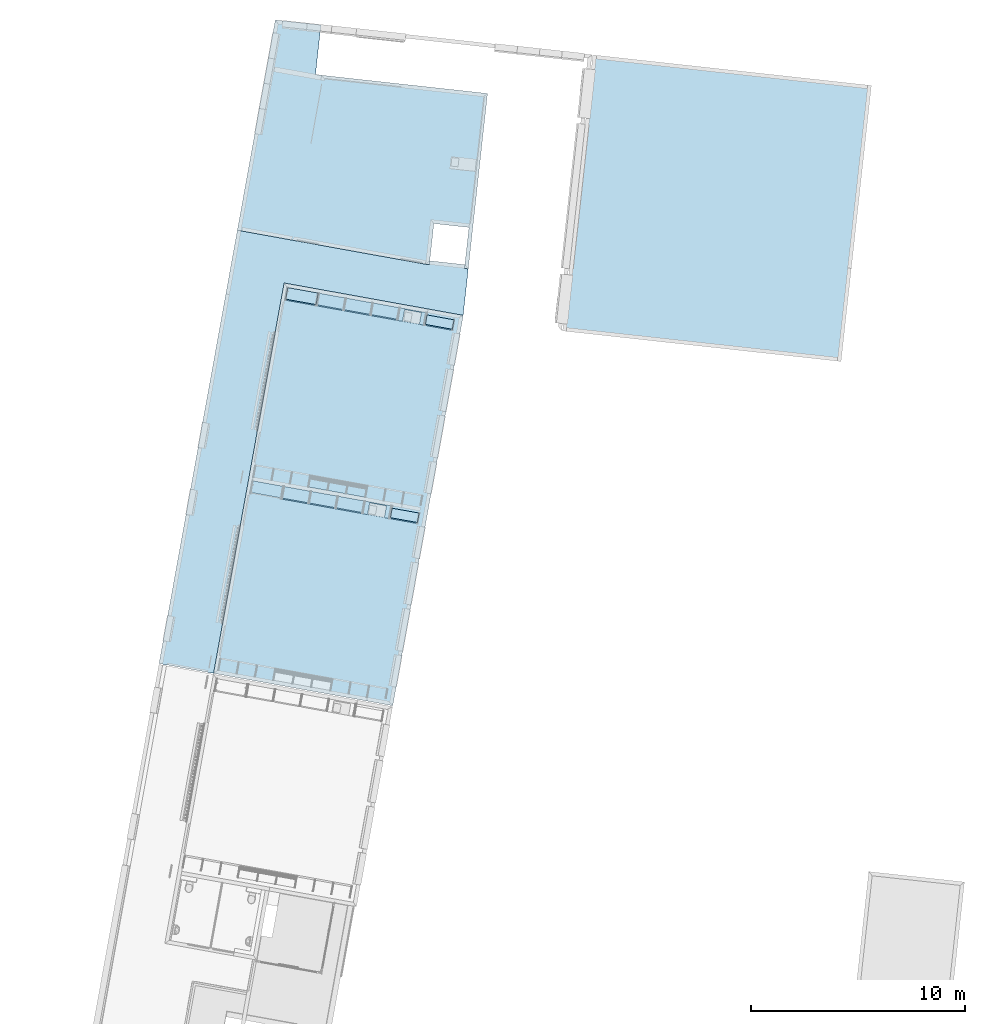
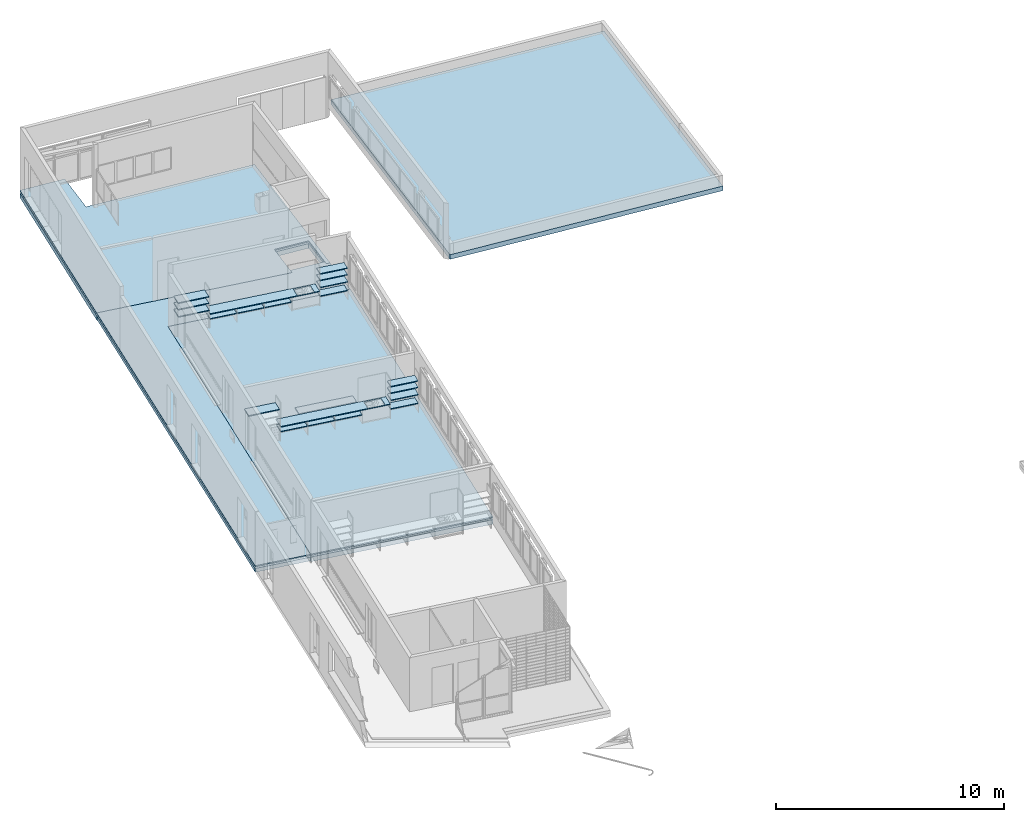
# One storey, part 3 of 52: 28 slabs, 3 elements without a shape of their own.
"""IFC2X3 building model written with IfcOpenShell, lengths in metres."""

from ifc_helpers import new_model, entity, si_unit, converted_unit, derived_unit, money_unit, direction, frame, origin_with_axes, place, context, subcontext, project, spatial, polyline, outline, extrude, material, layer, layer_set, layer_usage, type_object, element, aggregate, save


model = new_model("IFC2X3")

# Units and contexts
model_context = context("Model", 3, precision=1e-05, world=origin_with_axes(), true_north=direction((0.0, 1.0)))
body_context = subcontext(model_context, "Body", "Model", "MODEL_VIEW")
ifc_project = project(units=[si_unit("LENGTHUNIT", "METRE"), si_unit("AREAUNIT", "SQUARE_METRE"), si_unit("VOLUMEUNIT", "CUBIC_METRE"), converted_unit("PLANEANGLEUNIT", "DEGREE", entity("IfcPlaneAngleMeasure", 0.0174532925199), si_unit("PLANEANGLEUNIT", "RADIAN"), dimensions=[0, 0, 0, 0, 0, 0, 0]), money_unit("CHF"), converted_unit("TIMEUNIT", "Year", entity("IfcTimeMeasure", 31556926.0), si_unit("TIMEUNIT", "SECOND"), dimensions=[0, 0, 1, 0, 0, 0, 0]), si_unit("MASSUNIT", "GRAM", prefix="KILO"), si_unit("THERMODYNAMICTEMPERATUREUNIT", "DEGREE_CELSIUS"), si_unit("LUMINOUSINTENSITYUNIT", "LUMEN"), si_unit("ENERGYUNIT", "JOULE", prefix="MEGA"), derived_unit("THERMALCONDUCTANCEUNIT", [(si_unit("POWERUNIT", "WATT"), 1), (si_unit("LENGTHUNIT", "METRE"), -1), (si_unit("THERMODYNAMICTEMPERATUREUNIT", "KELVIN"), -1)]), derived_unit("SPECIFICHEATCAPACITYUNIT", [(si_unit("ENERGYUNIT", "JOULE"), 1), (si_unit("MASSUNIT", "GRAM", prefix="KILO"), -1), (si_unit("THERMODYNAMICTEMPERATUREUNIT", "KELVIN"), -1)]), derived_unit("MASSDENSITYUNIT", [(si_unit("MASSUNIT", "GRAM", prefix="KILO"), 1), (si_unit("VOLUMEUNIT", "CUBIC_METRE"), -1)])], contexts=[model_context])

# Site, building, storey
site_placement = place(None, frame((0.0, 0.0, 0.0), z_axis=(0.0, 0.0, 1.0), x_axis=(-0.177771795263, -0.984071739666, 0.0)))
site = spatial("IfcSite", under=ifc_project, at=site_placement, Name="Site", CompositionType="ELEMENT")
building_placement = place(site_placement, origin_with_axes())
building = spatial("IfcBuilding", under=site, at=building_placement, Name="Bâtiment", CompositionType="ELEMENT")
storey_placement = place(building_placement, frame((0.0, 0.0, 3.2), z_axis=(0.0, 0.0, 1.0), x_axis=(1.0, 0.0, 0.0)))
storey = spatial("IfcBuildingStorey", under=building, at=storey_placement, Name="R+1", CompositionType="ELEMENT", Elevation=3.2)

# Slabs
ifc_material_1 = material(Name="_Bois contreplaqué")
ifc_layer_1 = layer(ifc_material_1, 0.04, ventilated="UNKNOWN")
ifc_layer_set_1 = layer_set([ifc_layer_1], Name="_Bois contreplaqué 0.04")
ifc_layer_usage_1 = layer_usage(ifc_layer_set_1, "AXIS3", "NEGATIVE", 0.04)
slab_type_1 = type_object("IfcSlabType", Name="_Bois contreplaqué 40", PredefinedType="FLOOR")
slab_1_placement = place(storey_placement, frame((110.104841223, -154.978151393, 1.7), z_axis=(0.0, 0.0, 1.0), x_axis=(1.0, 0.0, 0.0)))
element("IfcSlab", 1, at=slab_1_placement, inside=storey, type_object=slab_type_1, material=ifc_layer_usage_1, Name="tablette fd classe", PredefinedType="FLOOR", context=body_context, shape_type="SweptSolid", body=[
    extrude(outline(polyline([(0.0, 0.0), (0.0, -1.44000000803), (0.550000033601, -1.44000000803), (0.550000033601, 0.0), (0.0, 0.0)])), frame((0.0, 0.0, -0.04), z_axis=(0.0, 0.0, 1.0), x_axis=(1.0, 0.0, 0.0)), (0.0, 0.0, 1.0), 0.04),
])
ifc_layer_usage_2 = layer_usage(ifc_layer_set_1, "AXIS3", "NEGATIVE", 0.04)
slab_2_placement = place(storey_placement, frame((110.204841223, -148.506151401, 1.7), z_axis=(0.0, 0.0, 1.0), x_axis=(1.0, 0.0, 0.0)))
element("IfcSlab", 2, at=slab_2_placement, inside=storey, type_object=slab_type_1, material=ifc_layer_usage_2, Name="tablette fd classe", PredefinedType="FLOOR", context=body_context, shape_type="SweptSolid", body=[
    extrude(outline(polyline([(0.0, 0.0), (0.0, -1.28), (0.450000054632, -1.28), (0.450000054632, 0.0), (0.0, 0.0)])), frame((0.0, 0.0, -0.04), z_axis=(0.0, 0.0, 1.0), x_axis=(1.0, 0.0, 0.0)), (0.0, 0.0, 1.0), 0.04),
])
ifc_layer_usage_3 = layer_usage(ifc_layer_set_1, "AXIS3", "NEGATIVE", 0.04)
slab_3_placement = place(storey_placement, frame((110.204841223, -148.506151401, 1.35), z_axis=(0.0, 0.0, 1.0), x_axis=(1.0, 0.0, 0.0)))
element("IfcSlab", 3, at=slab_3_placement, inside=storey, type_object=slab_type_1, material=ifc_layer_usage_3, Name="tablette fd classe", PredefinedType="FLOOR", context=body_context, shape_type="SweptSolid", body=[
    extrude(outline(polyline([(0.0, 0.0), (0.0, -1.28), (0.450000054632, -1.28), (0.450000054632, 0.0), (0.0, 0.0)])), frame((0.0, 0.0, -0.04), z_axis=(0.0, 0.0, 1.0), x_axis=(1.0, 0.0, 0.0)), (0.0, 0.0, 1.0), 0.04),
])
ifc_layer_usage_4 = layer_usage(ifc_layer_set_1, "AXIS3", "NEGATIVE", 0.04)
slab_4_placement = place(storey_placement, frame((110.204841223, -148.506151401, 0.5), z_axis=(0.0, 0.0, 1.0), x_axis=(1.0, 0.0, 0.0)))
element("IfcSlab", 4, at=slab_4_placement, inside=storey, type_object=slab_type_1, material=ifc_layer_usage_4, Name="tablette fd classe", PredefinedType="FLOOR", context=body_context, shape_type="SweptSolid", body=[
    extrude(outline(polyline([(0.0, 0.0), (0.0, -1.28), (0.450000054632, -1.28), (0.450000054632, 0.0), (0.0, 0.0)])), frame((0.0, 0.0, -0.04), z_axis=(0.0, 0.0, 1.0), x_axis=(1.0, 0.0, 0.0)), (0.0, 0.0, 1.0), 0.04),
])
ifc_layer_usage_5 = layer_usage(ifc_layer_set_1, "AXIS3", "NEGATIVE", 0.04)
slab_5_placement = place(storey_placement, frame((110.104841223, -154.978151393, 1.35), z_axis=(0.0, 0.0, 1.0), x_axis=(1.0, 0.0, 0.0)))
element("IfcSlab", 5, at=slab_5_placement, inside=storey, type_object=slab_type_1, material=ifc_layer_usage_5, Name="tablette fd classe", PredefinedType="FLOOR", context=body_context, shape_type="SweptSolid", body=[
    extrude(outline(polyline([(0.0, 0.0), (0.0, -1.44000000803), (0.550000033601, -1.44000000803), (0.550000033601, 0.0), (0.0, 0.0)])), frame((0.0, 0.0, -0.04), z_axis=(0.0, 0.0, 1.0), x_axis=(1.0, 0.0, 0.0)), (0.0, 0.0, 1.0), 0.04),
])
ifc_layer_usage_6 = layer_usage(ifc_layer_set_1, "AXIS3", "NEGATIVE", 0.04)
slab_6_placement = place(storey_placement, frame((110.204841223, -148.506151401, 1.0), z_axis=(0.0, 0.0, 1.0), x_axis=(1.0, 0.0, 0.0)))
element("IfcSlab", 6, at=slab_6_placement, inside=storey, type_object=slab_type_1, material=ifc_layer_usage_6, Name="tablette fd classe fx", PredefinedType="FLOOR", context=body_context, shape_type="SweptSolid", body=[
    extrude(outline(polyline([(0.0, 0.0), (0.0, -1.28), (0.500000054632, -1.28), (0.500000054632, 0.0), (0.0, 0.0)])), frame((0.0, 0.0, -0.04), z_axis=(0.0, 0.0, 1.0), x_axis=(1.0, 0.0, 0.0)), (0.0, 0.0, 1.0), 0.04),
])
ifc_layer_usage_7 = layer_usage(ifc_layer_set_1, "AXIS3", "NEGATIVE", 0.04)
slab_7_placement = place(storey_placement, frame((110.104841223, -153.679193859, 0.5), z_axis=(0.0, 0.0, 1.0), x_axis=(1.0, 0.0, 0.0)))
element("IfcSlab", 7, at=slab_7_placement, inside=storey, type_object=slab_type_1, material=ifc_layer_usage_7, Name="tablette fd classe", PredefinedType="FLOOR", context=body_context, shape_type="SweptSolid", body=[
    extrude(outline(polyline([(0.0, 0.0), (0.0, -1.24004246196), (0.550000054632, -1.24004246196), (0.550000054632, 0.0), (0.0, 0.0)])), frame((0.0, 0.0, -0.04), z_axis=(0.0, 0.0, 1.0), x_axis=(1.0, 0.0, 0.0)), (0.0, 0.0, 1.0), 0.04),
])
ifc_layer_usage_8 = layer_usage(ifc_layer_set_1, "AXIS3", "NEGATIVE", 0.04)
slab_8_placement = place(storey_placement, frame((110.104841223, -154.978236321, 1.0), z_axis=(0.0, 0.0, 1.0), x_axis=(1.0, 0.0, 0.0)))
element("IfcSlab", 8, at=slab_8_placement, inside=storey, type_object=slab_type_1, material=ifc_layer_usage_8, Name="tablette fd classe fx", PredefinedType="FLOOR", context=body_context, shape_type="SweptSolid", body=[
    extrude(outline(polyline([(0.0, 0.0), (0.0, -1.43991508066), (0.600000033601, -1.43991508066), (0.600000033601, 0.0), (0.0, 0.0)])), frame((0.0, 0.0, -0.04), z_axis=(0.0, 0.0, 1.0), x_axis=(1.0, 0.0, 0.0)), (0.0, 0.0, 1.0), 0.04),
])
ifc_layer_usage_9 = layer_usage(ifc_layer_set_1, "AXIS3", "NEGATIVE", 0.04)
slab_9_placement = place(storey_placement, frame((110.104841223, -151.123151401, 0.5), z_axis=(0.0, 0.0, 1.0), x_axis=(1.0, 0.0, 0.0)))
element("IfcSlab", 9, at=slab_9_placement, inside=storey, type_object=slab_type_1, material=ifc_layer_usage_9, Name="tablette fd classe", PredefinedType="FLOOR", context=body_context, shape_type="SweptSolid", body=[
    extrude(outline(polyline([(0.0, 0.0), (0.0, -1.24004246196), (0.550000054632, -1.24004246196), (0.550000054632, 0.0), (0.0, 0.0)])), frame((0.0, 0.0, -0.04), z_axis=(0.0, 0.0, 1.0), x_axis=(1.0, 0.0, 0.0)), (0.0, 0.0, 1.0), 0.04),
])
ifc_layer_usage_10 = layer_usage(ifc_layer_set_1, "AXIS3", "NEGATIVE", 0.04)
slab_10_placement = place(storey_placement, frame((110.104841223, -152.401193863, 0.5), z_axis=(0.0, 0.0, 1.0), x_axis=(1.0, 0.0, 0.0)))
element("IfcSlab", 10, at=slab_10_placement, inside=storey, type_object=slab_type_1, material=ifc_layer_usage_10, Name="tablette fd classe", PredefinedType="FLOOR", context=body_context, shape_type="SweptSolid", body=[
    extrude(outline(polyline([(0.0, 0.0), (0.0, -1.24004246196), (0.550000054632, -1.24004246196), (0.550000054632, 0.0), (0.0, 0.0)])), frame((0.0, 0.0, -0.04), z_axis=(0.0, 0.0, 1.0), x_axis=(1.0, 0.0, 0.0)), (0.0, 0.0, 1.0), 0.04),
])
ifc_layer_usage_11 = layer_usage(ifc_layer_set_1, "AXIS3", "NEGATIVE", 0.04)
slab_11_placement = place(storey_placement, frame((110.104841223, -154.938236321, 0.8), z_axis=(0.0, 0.0, 1.0), x_axis=(1.0, 0.0, 0.0)))
element("IfcSlab", 11, at=slab_11_placement, inside=storey, type_object=slab_type_1, material=ifc_layer_usage_11, Name="plan-travail classe", PredefinedType="FLOOR", context=body_context, shape_type="SweptSolid", body=[
    extrude(outline(polyline([(0.0, 0.0), (0.600000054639, 0.0), (0.600000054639, 5.11208491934), (0.0, 5.11208491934), (0.0, 0.0)]), holes=[polyline([(0.595000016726, 4.87308491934), (0.595000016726, 4.07308491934), (0.0450000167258, 4.07308491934), (0.0450000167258, 4.87308491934), (0.595000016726, 4.87308491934)])]), frame((0.0, 0.0, -0.04), z_axis=(0.0, 0.0, 1.0), x_axis=(1.0, 0.0, 0.0)), (0.0, 0.0, 1.0), 0.04),
])
ifc_layer_usage_12 = layer_usage(ifc_layer_set_1, "AXIS3", "NEGATIVE", 0.04)
slab_12_placement = place(storey_placement, frame((119.284841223, -154.938236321, 0.8), z_axis=(0.0, 0.0, 1.0), x_axis=(1.0, 0.0, 0.0)))
element("IfcSlab", 12, at=slab_12_placement, inside=storey, type_object=slab_type_1, material=ifc_layer_usage_12, Name="plan-travail classe", PredefinedType="FLOOR", context=body_context, shape_type="SweptSolid", body=[
    extrude(outline(polyline([(0.0, 0.0), (0.600000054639, 0.0), (0.600000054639, 5.11208491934), (0.0, 5.11208491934), (0.0, 0.0)]), holes=[polyline([(0.595000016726, 4.87308491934), (0.595000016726, 4.07308491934), (0.0450000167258, 4.07308491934), (0.0450000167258, 4.87308491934), (0.595000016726, 4.87308491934)])]), frame((0.0, 0.0, -0.04), z_axis=(0.0, 0.0, 1.0), x_axis=(1.0, 0.0, 0.0)), (0.0, 0.0, 1.0), 0.04),
])
ifc_layer_usage_13 = layer_usage(ifc_layer_set_1, "AXIS3", "NEGATIVE", 0.04)
slab_13_placement = place(storey_placement, frame((119.384841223, -148.506151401, 1.0), z_axis=(0.0, 0.0, 1.0), x_axis=(1.0, 0.0, 0.0)))
element("IfcSlab", 13, at=slab_13_placement, inside=storey, type_object=slab_type_1, material=ifc_layer_usage_13, Name="tablette fd classe fx", PredefinedType="FLOOR", context=body_context, shape_type="SweptSolid", body=[
    extrude(outline(polyline([(0.0, 0.0), (0.0, -1.28), (0.500000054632, -1.28), (0.500000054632, 0.0), (0.0, 0.0)])), frame((0.0, 0.0, -0.04), z_axis=(0.0, 0.0, 1.0), x_axis=(1.0, 0.0, 0.0)), (0.0, 0.0, 1.0), 0.04),
])
ifc_layer_usage_14 = layer_usage(ifc_layer_set_1, "AXIS3", "NEGATIVE", 0.04)
slab_14_placement = place(storey_placement, frame((119.384841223, -148.506151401, 1.35), z_axis=(0.0, 0.0, 1.0), x_axis=(1.0, 0.0, 0.0)))
element("IfcSlab", 14, at=slab_14_placement, inside=storey, type_object=slab_type_1, material=ifc_layer_usage_14, Name="tablette fd classe", PredefinedType="FLOOR", context=body_context, shape_type="SweptSolid", body=[
    extrude(outline(polyline([(0.0, 0.0), (0.0, -1.28), (0.450000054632, -1.28), (0.450000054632, 0.0), (0.0, 0.0)])), frame((0.0, 0.0, -0.04), z_axis=(0.0, 0.0, 1.0), x_axis=(1.0, 0.0, 0.0)), (0.0, 0.0, 1.0), 0.04),
])
ifc_layer_usage_15 = layer_usage(ifc_layer_set_1, "AXIS3", "NEGATIVE", 0.04)
slab_15_placement = place(storey_placement, frame((119.284841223, -154.978151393, 1.7), z_axis=(0.0, 0.0, 1.0), x_axis=(1.0, 0.0, 0.0)))
element("IfcSlab", 15, at=slab_15_placement, inside=storey, type_object=slab_type_1, material=ifc_layer_usage_15, Name="tablette fd classe", PredefinedType="FLOOR", context=body_context, shape_type="SweptSolid", body=[
    extrude(outline(polyline([(0.0, 0.0), (0.0, -1.44000000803), (0.550000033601, -1.44000000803), (0.550000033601, 0.0), (0.0, 0.0)])), frame((0.0, 0.0, -0.04), z_axis=(0.0, 0.0, 1.0), x_axis=(1.0, 0.0, 0.0)), (0.0, 0.0, 1.0), 0.04),
])
ifc_layer_usage_16 = layer_usage(ifc_layer_set_1, "AXIS3", "NEGATIVE", 0.04)
slab_16_placement = place(storey_placement, frame((119.384841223, -148.506151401, 1.7), z_axis=(0.0, 0.0, 1.0), x_axis=(1.0, 0.0, 0.0)))
element("IfcSlab", 16, at=slab_16_placement, inside=storey, type_object=slab_type_1, material=ifc_layer_usage_16, Name="tablette fd classe", PredefinedType="FLOOR", context=body_context, shape_type="SweptSolid", body=[
    extrude(outline(polyline([(0.0, 0.0), (0.0, -1.28), (0.450000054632, -1.28), (0.450000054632, 0.0), (0.0, 0.0)])), frame((0.0, 0.0, -0.04), z_axis=(0.0, 0.0, 1.0), x_axis=(1.0, 0.0, 0.0)), (0.0, 0.0, 1.0), 0.04),
])
ifc_layer_usage_17 = layer_usage(ifc_layer_set_1, "AXIS3", "NEGATIVE", 0.04)
slab_17_placement = place(storey_placement, frame((119.384841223, -148.506151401, 0.5), z_axis=(0.0, 0.0, 1.0), x_axis=(1.0, 0.0, 0.0)))
element("IfcSlab", 17, at=slab_17_placement, inside=storey, type_object=slab_type_1, material=ifc_layer_usage_17, Name="tablette fd classe", PredefinedType="FLOOR", context=body_context, shape_type="SweptSolid", body=[
    extrude(outline(polyline([(0.0, 0.0), (0.0, -1.28), (0.450000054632, -1.28), (0.450000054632, 0.0), (0.0, 0.0)])), frame((0.0, 0.0, -0.04), z_axis=(0.0, 0.0, 1.0), x_axis=(1.0, 0.0, 0.0)), (0.0, 0.0, 1.0), 0.04),
])
ifc_layer_usage_18 = layer_usage(ifc_layer_set_1, "AXIS3", "NEGATIVE", 0.04)
slab_18_placement = place(storey_placement, frame((119.284841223, -151.123151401, 0.5), z_axis=(0.0, 0.0, 1.0), x_axis=(1.0, 0.0, 0.0)))
element("IfcSlab", 18, at=slab_18_placement, inside=storey, type_object=slab_type_1, material=ifc_layer_usage_18, Name="tablette fd classe", PredefinedType="FLOOR", context=body_context, shape_type="SweptSolid", body=[
    extrude(outline(polyline([(0.0, 0.0), (0.0, -1.24004246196), (0.550000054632, -1.24004246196), (0.550000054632, 0.0), (0.0, 0.0)])), frame((0.0, 0.0, -0.04), z_axis=(0.0, 0.0, 1.0), x_axis=(1.0, 0.0, 0.0)), (0.0, 0.0, 1.0), 0.04),
])
ifc_layer_usage_19 = layer_usage(ifc_layer_set_1, "AXIS3", "NEGATIVE", 0.04)
slab_19_placement = place(storey_placement, frame((119.284841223, -152.401193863, 0.5), z_axis=(0.0, 0.0, 1.0), x_axis=(1.0, 0.0, 0.0)))
element("IfcSlab", 19, at=slab_19_placement, inside=storey, type_object=slab_type_1, material=ifc_layer_usage_19, Name="tablette fd classe", PredefinedType="FLOOR", context=body_context, shape_type="SweptSolid", body=[
    extrude(outline(polyline([(0.0, 0.0), (0.0, -1.24004246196), (0.550000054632, -1.24004246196), (0.550000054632, 0.0), (0.0, 0.0)])), frame((0.0, 0.0, -0.04), z_axis=(0.0, 0.0, 1.0), x_axis=(1.0, 0.0, 0.0)), (0.0, 0.0, 1.0), 0.04),
])
ifc_layer_usage_20 = layer_usage(ifc_layer_set_1, "AXIS3", "NEGATIVE", 0.04)
slab_20_placement = place(storey_placement, frame((119.284841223, -153.679193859, 0.5), z_axis=(0.0, 0.0, 1.0), x_axis=(1.0, 0.0, 0.0)))
element("IfcSlab", 20, at=slab_20_placement, inside=storey, type_object=slab_type_1, material=ifc_layer_usage_20, Name="tablette fd classe", PredefinedType="FLOOR", context=body_context, shape_type="SweptSolid", body=[
    extrude(outline(polyline([(0.0, 0.0), (0.0, -1.24004246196), (0.550000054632, -1.24004246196), (0.550000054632, 0.0), (0.0, 0.0)])), frame((0.0, 0.0, -0.04), z_axis=(0.0, 0.0, 1.0), x_axis=(1.0, 0.0, 0.0)), (0.0, 0.0, 1.0), 0.04),
])
ifc_layer_2 = layer(ifc_material_1, 0.05, ventilated="UNKNOWN")
ifc_layer_set_2 = layer_set([ifc_layer_2], Name="_Bois contreplaqué 0.05")
ifc_layer_usage_21 = layer_usage(ifc_layer_set_2, "AXIS3", "NEGATIVE", 0.05)
slab_type_2 = type_object("IfcSlabType", Name="_Bois contreplaqué 50", PredefinedType="FLOOR")
slab_21_placement = place(storey_placement, frame((118.604841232, -153.807151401, 0.7), z_axis=(0.0, 0.0, 1.0), x_axis=(1.0, 0.0, 0.0)))
element("IfcSlab", 21, at=slab_21_placement, inside=storey, type_object=slab_type_2, material=ifc_layer_usage_21, Name="plan-sous tableau", PredefinedType="FLOOR", context=body_context, shape_type="SweptSolid", body=[
    extrude(outline(polyline([(0.0, 0.0), (0.499999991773, 0.0), (0.499999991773, 2.69), (0.0, 2.69), (0.0, 0.0)])), frame((0.0, 0.0, -0.05), z_axis=(0.0, 0.0, 1.0), x_axis=(1.0, 0.0, 0.0)), (0.0, 0.0, 1.0), 0.05),
])
ifc_material_2 = material(Name="_BA banché RAL9007")
ifc_layer_3 = layer(ifc_material_2, 0.25, ventilated="UNKNOWN")
ifc_layer_set_3 = layer_set([ifc_layer_3], Name="_BA banché RAL9007 0.25")
ifc_layer_usage_22 = layer_usage(ifc_layer_set_3, "AXIS3", "NEGATIVE", 0.25)
slab_type_3 = type_object("IfcSlabType", Name="_DalleToit 25+38 gris 630", PredefinedType="FLOOR")
slab_22_placement = place(storey_placement, frame((108.907663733, -130.355335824, 0.65), z_axis=(0.0, 0.0, 1.0), x_axis=(1.0, 0.0, 0.0)))
element("IfcSlab", 22, at=slab_22_placement, inside=storey, type_object=slab_type_3, material=ifc_layer_usage_22, Name="Dalle-toiture-pluri", PredefinedType="FLOOR", context=body_context, shape_type="SweptSolid", body=[
    extrude(outline(polyline([(0.0, 0.0), (-12.9487819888, -0.899044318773), (-12.0414564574, -13.9670992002), (0.907325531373, -13.0680548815), (0.0, 0.0)])), frame((0.0, 0.0, -0.25), z_axis=(0.0, 0.0, 1.0), x_axis=(1.0, 0.0, 0.0)), (0.0, 0.0, 1.0), 0.25),
])

slab_type_4 = type_object("IfcSlabType", Name="_Dalle 25+15 gris 400", PredefinedType="FLOOR")
slab_23_placement = place(storey_placement, frame((0.0, 0.0, -3.2), z_axis=(0.0, 0.0, 1.0), x_axis=(1.0, 0.0, 0.0)))
slab_23 = element("IfcSlab", 23, at=slab_23_placement, inside=storey, type_object=slab_type_4, Name="dalle-reunion-couloir", PredefinedType="FLOOR")
slab_type_5 = type_object("IfcSlabType", Name="IFC Extruded", PredefinedType="FLOOR")
slab_24_placement = place(slab_23_placement, frame((97.7517370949, -157.07657068, 3.2), z_axis=(0.0, 0.0, 1.0), x_axis=(1.0, 0.0, 0.0)))
slab_24 = element("IfcSlab", 24, at=slab_24_placement, type_object=slab_type_5, material=ifc_material_2, Name="_BA banché RAL9007", PredefinedType="FLOOR", context=body_context, shape_type="SweptSolid", body=[
    extrude(outline(polyline([(0.0, 0.0), (0.148619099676, -2.14053637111), (10.133104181, -2.14053637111), (10.1330441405, 6.79889297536), (10.1206392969, 6.97755782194), (8.1952718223, 6.84388064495), (8.08098835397, 8.48991807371), (10.0063536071, 8.6235951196), (9.99388337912, 8.80316263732), (1.76407271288, 8.2317602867), (2.32439403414, 0.161384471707), (0.0, 0.0)])), frame((0.0, 0.0, -0.4), z_axis=(0.0, 0.0, 1.0), x_axis=(1.0, 0.0, 0.0)), (0.0, 0.0, 1.0), 0.25),
])
ifc_material_3 = material(Name="_Chape")
slab_25_placement = place(slab_23_placement, frame((97.7517370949, -157.07657068, 3.2), z_axis=(0.0, 0.0, 1.0), x_axis=(1.0, 0.0, 0.0)))
slab_25 = element("IfcSlab", 25, at=slab_25_placement, type_object=slab_type_5, material=ifc_material_3, Name="_Chape", PredefinedType="FLOOR", context=body_context, shape_type="SweptSolid", body=[
    extrude(outline(polyline([(0.0, 0.0), (0.148619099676, -2.14053637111), (10.133104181, -2.14053637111), (10.1330441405, 6.79889297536), (10.1206392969, 6.97755782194), (8.1952718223, 6.84388064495), (8.08098835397, 8.48991807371), (10.0063536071, 8.6235951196), (9.99388337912, 8.80316263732), (1.76407271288, 8.2317602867), (2.32439403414, 0.161384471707), (0.0, 0.0)])), frame((0.0, 0.0, -0.06), z_axis=(0.0, 0.0, 1.0), x_axis=(1.0, 0.0, 0.0)), (0.0, 0.0, 1.0), 0.06),
])
aggregate(slab_23, [slab_24, slab_25])

slab_26_placement = place(storey_placement, frame((0.0, 0.0, -3.2), z_axis=(0.0, 0.0, 1.0), x_axis=(1.0, 0.0, 0.0)))
slab_26 = element("IfcSlab", 26, at=slab_26_placement, inside=storey, type_object=slab_type_4, Name="Dalle-classe", PredefinedType="FLOOR")
slab_27_placement = place(slab_26_placement, frame((109.924841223, -156.627151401, 3.2), z_axis=(0.0, 0.0, 1.0), x_axis=(1.0, 0.0, 0.0)))
slab_27 = element("IfcSlab", 27, at=slab_27_placement, type_object=slab_type_5, material=ifc_material_2, Name="_BA banché RAL9007", PredefinedType="FLOOR", context=body_context, shape_type="SweptSolid", body=[
    extrude(outline(polyline([(0.0, 0.0), (18.54, 7.00680402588e-10), (18.54, 8.5100000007), (0.0, 8.51), (0.0, 0.0)])), frame((0.0, 0.0, -0.4), z_axis=(0.0, 0.0, 1.0), x_axis=(1.0, 0.0, 0.0)), (0.0, 0.0, 1.0), 0.25),
])
slab_28_placement = place(slab_26_placement, frame((109.924841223, -156.627151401, 3.2), z_axis=(0.0, 0.0, 1.0), x_axis=(1.0, 0.0, 0.0)))
slab_28 = element("IfcSlab", 28, at=slab_28_placement, type_object=slab_type_5, material=ifc_material_3, Name="_Chape", PredefinedType="FLOOR", context=body_context, shape_type="SweptSolid", body=[
    extrude(outline(polyline([(0.0, 0.0), (18.54, 7.00680402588e-10), (18.54, 8.5100000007), (0.0, 8.51), (0.0, 0.0)])), frame((0.0, 0.0, -0.06), z_axis=(0.0, 0.0, 1.0), x_axis=(1.0, 0.0, 0.0)), (0.0, 0.0, 1.0), 0.06),
])
aggregate(slab_26, [slab_27, slab_28])

slab_type_6 = type_object("IfcSlabType", Name="_Dalle 20+15 gris 350", PredefinedType="FLOOR")
slab_29_placement = place(storey_placement, frame((0.0, 0.0, -3.2), z_axis=(0.0, 0.0, 1.0), x_axis=(1.0, 0.0, 0.0)))
slab_29 = element("IfcSlab", 29, at=slab_29_placement, inside=storey, type_object=slab_type_6, Name="dalle-couloir", PredefinedType="FLOOR")
slab_30_placement = place(slab_29_placement, frame((109.924840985, -148.122103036, 3.2), z_axis=(0.0, 0.0, 1.0), x_axis=(1.0, 0.0, 0.0)))
slab_30 = element("IfcSlab", 30, at=slab_30_placement, type_object=slab_type_5, material=ifc_material_2, Name="_BA banché RAL9007", PredefinedType="FLOOR", context=body_context, shape_type="SweptSolid", body=[
    extrude(outline(polyline([(0.0, 0.0), (-2.1792206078, -0.151304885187), (-2.16675026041, -0.330872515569), (-2.346317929, -0.343340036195), (-2.23203229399, -1.98937741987), (-2.0524646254, -1.97690989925), (-2.0399995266, -2.15657138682), (-2.03999983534, -11.0950040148), (0.986187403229, -11.0950040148), (18.5400002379, -11.0950040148), (18.5400002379, -8.5050483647), (2.37893146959e-07, -8.5050483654), (0.0, 0.0)])), frame((0.0, 0.0, -0.35), z_axis=(0.0, 0.0, 1.0), x_axis=(1.0, 0.0, 0.0)), (0.0, 0.0, 1.0), 0.2),
])
slab_31_placement = place(slab_29_placement, frame((109.924840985, -148.122103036, 3.2), z_axis=(0.0, 0.0, 1.0), x_axis=(1.0, 0.0, 0.0)))
slab_31 = element("IfcSlab", 31, at=slab_31_placement, type_object=slab_type_5, material=ifc_material_3, Name="_Chape", PredefinedType="FLOOR", context=body_context, shape_type="SweptSolid", body=[
    extrude(outline(polyline([(0.0, 0.0), (-2.1792206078, -0.151304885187), (-2.16675026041, -0.330872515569), (-2.346317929, -0.343340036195), (-2.23203229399, -1.98937741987), (-2.0524646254, -1.97690989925), (-2.0399995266, -2.15657138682), (-2.03999983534, -11.0950040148), (0.986187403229, -11.0950040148), (18.5400002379, -11.0950040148), (18.5400002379, -8.5050483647), (2.37893146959e-07, -8.5050483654), (0.0, 0.0)])), frame((0.0, 0.0, -0.06), z_axis=(0.0, 0.0, 1.0), x_axis=(1.0, 0.0, 0.0)), (0.0, 0.0, 1.0), 0.06),
])
aggregate(slab_29, [slab_30, slab_31])

save(model, "model.ifc")
